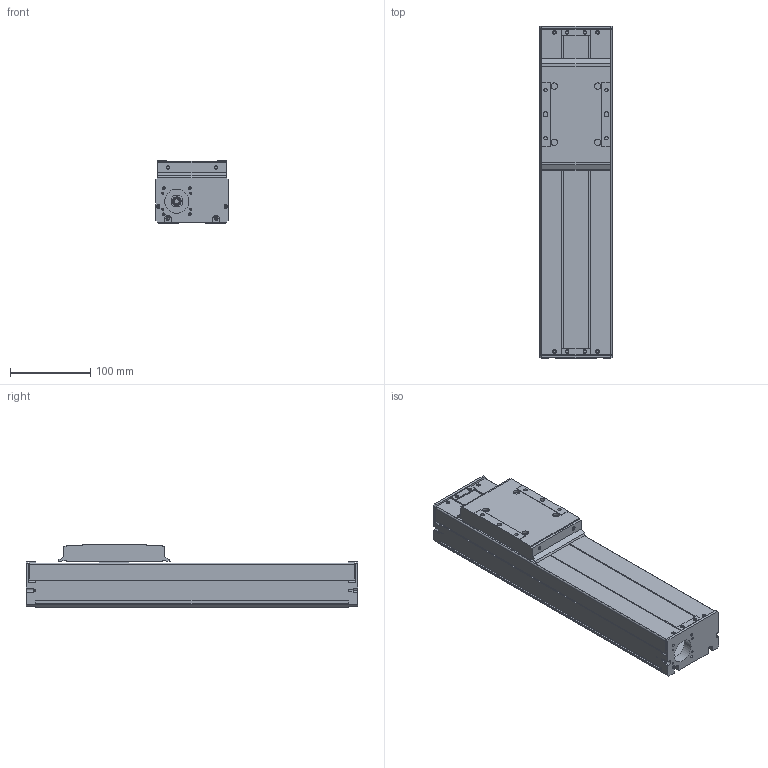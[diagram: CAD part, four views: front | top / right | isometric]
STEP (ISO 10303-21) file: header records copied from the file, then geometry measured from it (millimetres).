
FILE_DESCRIPTION (( 'STEP AP214' ), '1' );
FILE_NAME ('HZMotion TKS90-150A1F0.STEP', '2021-09-15T10:34:44', ( 'AutoBVT' ), ( 'Microsoft' ), 'SwSTEP 2.0', 'SolidWorks 2020', '' );
FILE_SCHEMA (( 'AUTOMOTIVE_DESIGN' ));
Length unit declared in the file: millimetre
Products named in the file (3): A1F0-150-1; 150-2; HZMotion TKS90-150A1F0
Assembly tree (2 placements, depth 2):
  HZMotion TKS90-150A1F0
    150-2
    A1F0-150-1
Bounding box: 90 x 414 x 78 mm (x, y, z)
Volume: 928069.4 mm3; surface area: 317953.1 mm2
Topology: 2 solids, 6 shells, 510 faces, 1319 edges, 850 vertices
Faces by surface type: plane 267, cylinder 207, cone 32, torus 4
Entity records: 15633 total; most frequent: DIRECTION 2769, CARTESIAN_POINT 2660, ORIENTED_EDGE 2590, EDGE_CURVE 1295, AXIS2_PLACEMENT_3D 959, VECTOR 851, LINE 851, VERTEX_POINT 850
